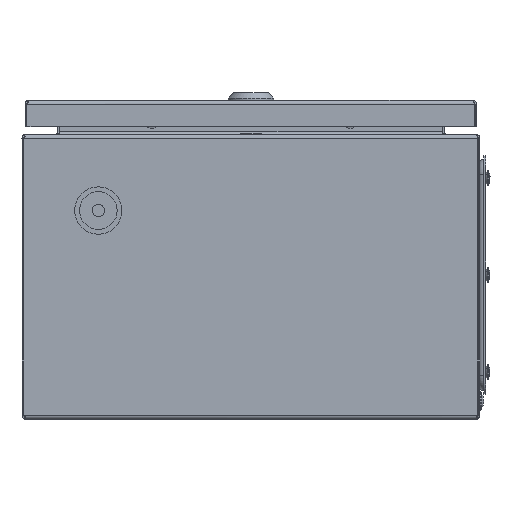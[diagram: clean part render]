
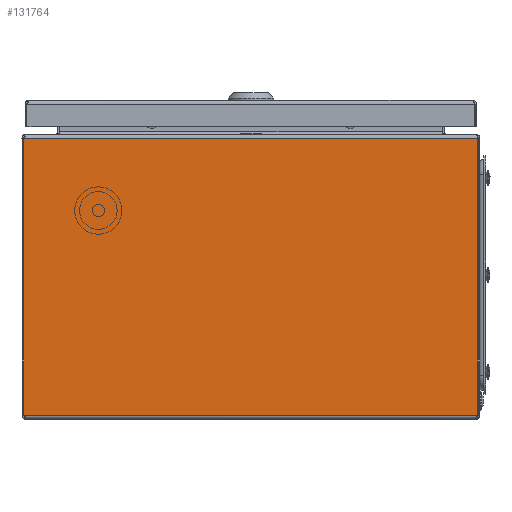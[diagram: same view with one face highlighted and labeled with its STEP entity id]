
A CAD part, left-side view. The second image highlights one B-rep face of the part: STEP entity #131764.
In plain terms, the highlighted planar face has unit normal (-1, 0, 0).
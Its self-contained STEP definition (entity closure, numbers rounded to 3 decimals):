
#4394 = DIRECTION ( 'NONE',  ( 0., -1., 0. ) ) ;
#4566 = ORIENTED_EDGE ( 'NONE', *, *, #64870, .F. ) ;
#5630 = FACE_OUTER_BOUND ( 'NONE', #56595, .T. ) ;
#9303 = LINE ( 'NONE', #181060, #91807 ) ;
#10159 = EDGE_CURVE ( 'NONE', #139767, #45487, #26661, .T. ) ;
#15523 = ORIENTED_EDGE ( 'NONE', *, *, #91881, .F. ) ;
#16455 = LINE ( 'NONE', #73754, #126338 ) ;
#26661 = LINE ( 'NONE', #69012, #93242 ) ;
#32512 = CARTESIAN_POINT ( 'NONE',  ( -200., -148.623, 2.7 ) ) ;
#32819 = DIRECTION ( 'NONE',  ( 0., 1., 0. ) ) ;
#33755 = CARTESIAN_POINT ( 'NONE',  ( -200., -148.623, 184.05 ) ) ;
#34234 = CARTESIAN_POINT ( 'NONE',  ( -200., 148.729, 2.7 ) ) ;
#35472 = CARTESIAN_POINT ( 'NONE',  ( -200., -2150., 184.05 ) ) ;
#41747 = CARTESIAN_POINT ( 'NONE',  ( -200., 148.623, 184.05 ) ) ;
#43144 = EDGE_CURVE ( 'NONE', #141462, #52716, #110089, .T. ) ;
#45487 = VERTEX_POINT ( 'NONE', #116853 ) ;
#52716 = VERTEX_POINT ( 'NONE', #166879 ) ;
#56595 = EDGE_LOOP ( 'NONE', ( #97684, #86986, #132639, #4566, #15523, #127612, #107380, #146483 ) ) ;
#59259 = DIRECTION ( 'NONE',  ( 0., 0., -1. ) ) ;
#62867 = VECTOR ( 'NONE', #108240, 1000. ) ;
#64228 = CARTESIAN_POINT ( 'NONE',  ( -200., 148.729, 2.7 ) ) ;
#64870 = EDGE_CURVE ( 'NONE', #145123, #141462, #168950, .T. ) ;
#67166 = CARTESIAN_POINT ( 'NONE',  ( -200., -148.623, 2.7 ) ) ;
#69012 = CARTESIAN_POINT ( 'NONE',  ( -200., -148.729, 2.7 ) ) ;
#72231 = VECTOR ( 'NONE', #4394, 1000. ) ;
#73754 = CARTESIAN_POINT ( 'NONE',  ( -200., 148.729, 184.05 ) ) ;
#74206 = LINE ( 'NONE', #131375, #115424 ) ;
#76091 = PLANE ( 'NONE',  #127763 ) ;
#84927 = VECTOR ( 'NONE', #129417, 1000. ) ;
#85143 = CARTESIAN_POINT ( 'NONE',  ( -200., 148.623, 2.7 ) ) ;
#86986 = ORIENTED_EDGE ( 'NONE', *, *, #135527, .F. ) ;
#88302 = CARTESIAN_POINT ( 'NONE',  ( -200., -2150., 184.05 ) ) ;
#89008 = LINE ( 'NONE', #35472, #182637 ) ;
#91807 = VECTOR ( 'NONE', #96493, 1000. ) ;
#91881 = EDGE_CURVE ( 'NONE', #169215, #145123, #74206, .T. ) ;
#92703 = DIRECTION ( 'NONE',  ( 0., 1., 0. ) ) ;
#93242 = VECTOR ( 'NONE', #126187, 1000. ) ;
#96493 = DIRECTION ( 'NONE',  ( 0., 1., 0. ) ) ;
#97684 = ORIENTED_EDGE ( 'NONE', *, *, #100778, .T. ) ;
#100778 = EDGE_CURVE ( 'NONE', #111944, #127893, #89008, .T. ) ;
#107380 = ORIENTED_EDGE ( 'NONE', *, *, #10159, .T. ) ;
#108240 = DIRECTION ( 'NONE',  ( 0., 0., 1. ) ) ;
#110089 = LINE ( 'NONE', #64228, #62867 ) ;
#111944 = VERTEX_POINT ( 'NONE', #33755 ) ;
#112178 = EDGE_CURVE ( 'NONE', #45487, #111944, #9303, .T. ) ;
#115424 = VECTOR ( 'NONE', #32819, 1000. ) ;
#116853 = CARTESIAN_POINT ( 'NONE',  ( -200., -148.729, 184.05 ) ) ;
#126187 = DIRECTION ( 'NONE',  ( 0., 0., 1. ) ) ;
#126338 = VECTOR ( 'NONE', #144160, 1000. ) ;
#127612 = ORIENTED_EDGE ( 'NONE', *, *, #146073, .T. ) ;
#127763 = AXIS2_PLACEMENT_3D ( 'NONE', #88302, #144645, #59259 ) ;
#127893 = VERTEX_POINT ( 'NONE', #41747 ) ;
#129417 = DIRECTION ( 'NONE',  ( 0., 1., 0. ) ) ;
#131375 = CARTESIAN_POINT ( 'NONE',  ( -200., -2150., 2.7 ) ) ;
#131764 = ADVANCED_FACE ( 'NONE', ( #5630 ), #76091, .F. ) ;
#132639 = ORIENTED_EDGE ( 'NONE', *, *, #43144, .F. ) ;
#135527 = EDGE_CURVE ( 'NONE', #52716, #127893, #16455, .T. ) ;
#138273 = CARTESIAN_POINT ( 'NONE',  ( -200., -148.729, 2.7 ) ) ;
#139767 = VERTEX_POINT ( 'NONE', #138273 ) ;
#141462 = VERTEX_POINT ( 'NONE', #34234 ) ;
#144160 = DIRECTION ( 'NONE',  ( 0., -1., 0. ) ) ;
#144645 = DIRECTION ( 'NONE',  ( 1., 0., 0. ) ) ;
#145123 = VERTEX_POINT ( 'NONE', #85143 ) ;
#146073 = EDGE_CURVE ( 'NONE', #169215, #139767, #148025, .T. ) ;
#146483 = ORIENTED_EDGE ( 'NONE', *, *, #112178, .T. ) ;
#148025 = LINE ( 'NONE', #32512, #72231 ) ;
#157696 = CARTESIAN_POINT ( 'NONE',  ( -200., 148.623, 2.7 ) ) ;
#166879 = CARTESIAN_POINT ( 'NONE',  ( -200., 148.729, 184.05 ) ) ;
#168950 = LINE ( 'NONE', #157696, #84927 ) ;
#169215 = VERTEX_POINT ( 'NONE', #67166 ) ;
#181060 = CARTESIAN_POINT ( 'NONE',  ( -200., -148.729, 184.05 ) ) ;
#182637 = VECTOR ( 'NONE', #92703, 1000. ) ;
